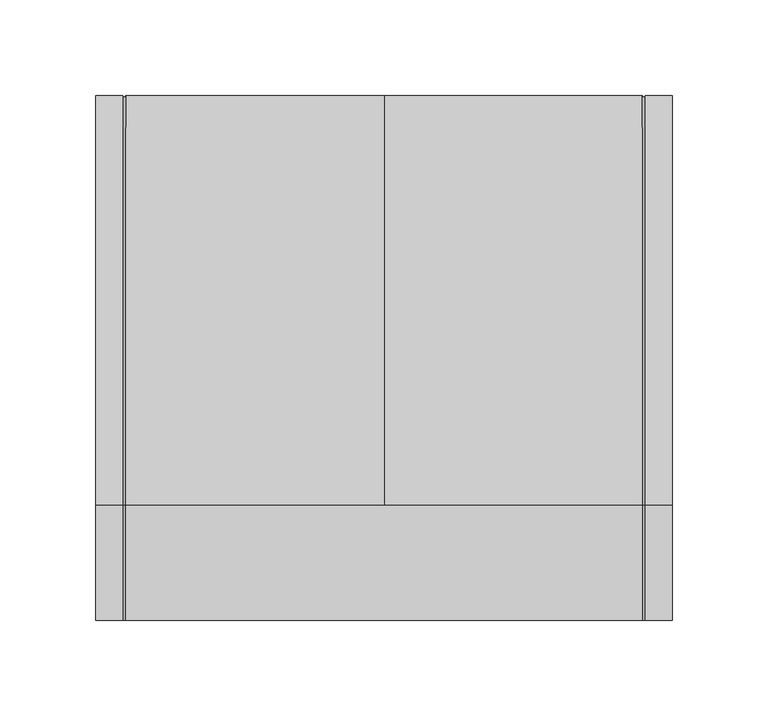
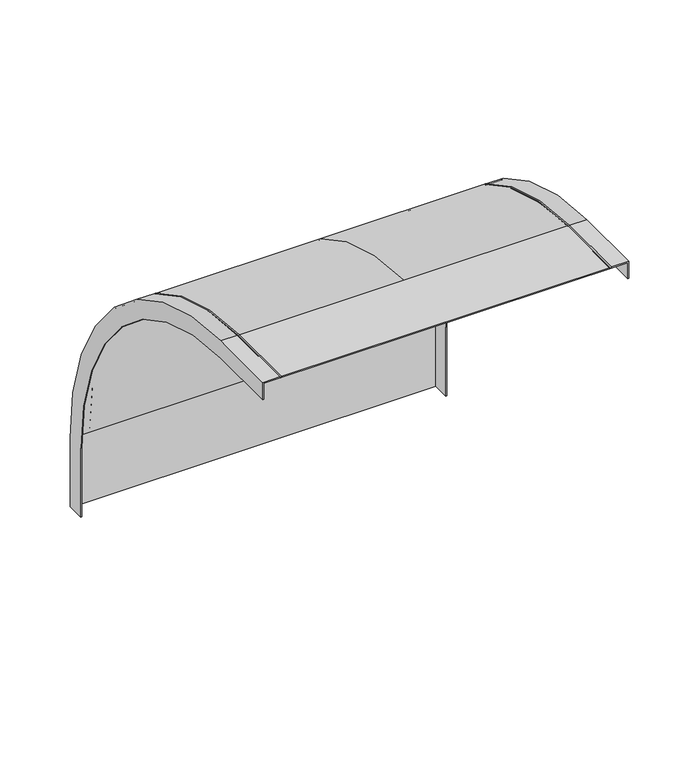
"""IFC4 building model written with IfcOpenShell, lengths in millimetres: proxy geometry, Cable_Tray_Cover_TCXERC_Basortray : Basortray TCXERC 300x100-GS."""

from ifc_helpers import new_model, si_unit, point, frame, origin, place, context, project, spatial, polyline, circle_curve, ellipse_curve, trimmed, source, transform, mapped, element, save
from ifc_brep_helpers import plane_surface, cylinder_surface, revolved_surface, advanced_brep


def generic_models_648d6697(model_context):
    return source(origin(), model_context, "Body", "AdvancedBrep", [
        advanced_brep(
        [(151.0, 0.8, -274.0), (151.0, -14.2, -274.0), (150.0, -14.2, -274.0), (150.0, -0.2, -274.0), (-150.0, -0.2, -274.0), (-150.0, -14.2, -274.0), (-151.0, -14.2, -274.0), (-151.0, 0.8, -274.0), (-136.8, 0.8, -274.0), (-135.2, 0.8, -274.0), (135.2, 0.8, -274.0), (136.8, 0.8, -274.0), (-151.0, -274.0, 0.8), (-151.0, -274.0, -14.2), (-150.0, -274.0, -14.2), (-150.0, -274.0, -0.2), (150.0, -274.0, -0.2), (150.0, -274.0, -14.2), (151.0, -274.0, -14.2), (151.0, -274.0, 0.8), (136.8, -274.0, 0.8), (135.2, -274.0, 0.8), (-135.2, -274.0, 0.8), (-136.8, -274.0, 0.8), (-151.0, -214.0, 0.8), (-136.8, -214.0, 0.8), (151.0, -214.0, 0.8), (136.8, -214.0, 0.8), (0.0, -214.0, 0.8), (-135.2, -214.0, 0.8), (135.2, -214.0, 0.8), (-151.0, -214.0, -14.2), (-150.0, -214.0, -14.2), (-150.0, -214.0, -0.2), (0.0, -214.0, -0.2), (150.0, -214.0, -0.2), (150.0, -214.0, -14.2), (151.0, -214.0, -14.2), (151.0, 0.8, -214.0), (151.0, -14.2, -214.0), (150.0, -14.2, -214.0), (150.0, -0.2, -214.0), (0.0, -0.2, -214.0), (-150.0, -0.2, -214.0), (-150.0, -14.2, -214.0), (-151.0, -14.2, -214.0), (-151.0, 0.8, -214.0), (136.8, 0.8, -214.0), (-136.8, 0.8, -214.0), (-135.2, 0.8, -214.0), (0.0, 0.8, -214.0), (135.2, 0.8, -214.0)],
        [
            (0, 1),
            (1, 2),
            (2, 3),
            (3, 4),
            (4, 5),
            (5, 6),
            (6, 7),
            (7, 8),
            (8, 9, circle_curve(frame((-136.0, 0.8, -274.0), z_axis=(0.0, 0.0, 1.0), x_axis=(0.0, -1.0, 0.0)), 0.8)),
            (9, 10),
            (10, 11, circle_curve(frame((136.0, 0.8, -274.0), z_axis=(0.0, 0.0, 1.0), x_axis=(0.0, -1.0, 0.0)), 0.8)),
            (11, 0),
            (12, 13),
            (13, 14),
            (14, 15),
            (15, 16),
            (16, 17),
            (17, 18),
            (18, 19),
            (19, 20),
            (20, 21, circle_curve(frame((136.0, -274.0, 0.8), z_axis=(0.0, 1.0, 0.0), x_axis=(0.0, 0.0, -1.0)), 0.8)),
            (21, 22),
            (22, 23, circle_curve(frame((-136.0, -274.0, 0.8), z_axis=(0.0, 1.0, 0.0), x_axis=(0.0, 0.0, -1.0)), 0.8)),
            (23, 12),
            (24, 12),
            (23, 25),
            (25, 24),
            (19, 26),
            (26, 27),
            (27, 20),
            (28, 29),
            (29, 22),
            (21, 30),
            (30, 28),
            (13, 31),
            (31, 32),
            (32, 14),
            (15, 33),
            (33, 34),
            (34, 35),
            (35, 16),
            (17, 36),
            (36, 37),
            (37, 18),
            (0, 38),
            (38, 26, circle_curve(frame((151.0, -214.0, -214.0), z_axis=(1.0, 0.0, 0.0), x_axis=(0.0, 1.0, 0.0)), 214.8)),
            (37, 39, circle_curve(frame((151.0, -214.0, -214.0), z_axis=(-1.0, 0.0, 0.0), x_axis=(0.0, 1.0, 0.0)), 199.8)),
            (39, 1),
            (39, 40),
            (40, 2),
            (40, 36, circle_curve(frame((150.0, -214.0, -214.0), z_axis=(1.0, 0.0, 0.0), x_axis=(0.0, 1.0, 0.0)), 199.8)),
            (35, 41, circle_curve(frame((150.0, -214.0, -214.0), z_axis=(-1.0, 0.0, 0.0), x_axis=(0.0, 1.0, 0.0)), 213.8)),
            (41, 3),
            (41, 42),
            (42, 43),
            (43, 4),
            (43, 33, circle_curve(frame((-150.0, -214.0, -214.0), z_axis=(1.0, 0.0, 0.0), x_axis=(0.0, 1.0, 0.0)), 213.8)),
            (32, 44, circle_curve(frame((-150.0, -214.0, -214.0), z_axis=(-1.0, 0.0, 0.0), x_axis=(0.0, 1.0, 0.0)), 199.8)),
            (44, 5),
            (44, 45),
            (45, 6),
            (45, 31, circle_curve(frame((-151.0, -214.0, -214.0), z_axis=(1.0, 0.0, 0.0), x_axis=(0.0, 1.0, 0.0)), 199.8)),
            (24, 46, circle_curve(frame((-151.0, -214.0, -214.0), z_axis=(-1.0, 0.0, 0.0), x_axis=(0.0, 1.0, 0.0)), 214.8)),
            (46, 7),
            (11, 47),
            (47, 38),
            (46, 48),
            (48, 8),
            (49, 50),
            (50, 51),
            (51, 10),
            (9, 49),
            (34, 42, circle_curve(frame((0.0, -214.0, -214.0), z_axis=(-1.0, 0.0, 0.0), x_axis=(0.0, 1.0, 0.0)), 213.8)),
            (25, 48, circle_curve(frame((-136.8, -214.0, -214.0), z_axis=(-1.0, 0.0, 0.0), x_axis=(0.0, 1.0, 0.0)), 214.8)),
            (28, 50, circle_curve(frame((0.0, -214.0, -214.0), z_axis=(-1.0, 0.0, 0.0), x_axis=(0.0, 1.0, 0.0)), 214.8)),
            (49, 29, circle_curve(frame((-135.2, -214.0, -214.0), z_axis=(1.0, 0.0, 0.0), x_axis=(0.0, 1.0, 0.0)), 214.8)),
            (47, 27, circle_curve(frame((136.8, -214.0, -214.0), z_axis=(1.0, 0.0, 0.0), x_axis=(0.0, 1.0, 0.0)), 214.8)),
            (30, 51, circle_curve(frame((135.2, -214.0, -214.0), z_axis=(-1.0, 0.0, 0.0), x_axis=(0.0, 1.0, 0.0)), 214.8)),
            (29, 25, circle_curve(frame((-136.0, -214.0, 0.8), z_axis=(0.0, 1.0, 0.0), x_axis=(0.0, 0.0, -1.0)), 0.8)),
            (48, 49, circle_curve(frame((-136.0, 0.8, -214.0), z_axis=(0.0, 0.0, 1.0), x_axis=(0.0, -1.0, 0.0)), 0.8)),
            (27, 30, circle_curve(frame((136.0, -214.0, 0.8), z_axis=(0.0, 1.0, 0.0), x_axis=(0.0, 0.0, -1.0)), 0.8)),
            (51, 47, circle_curve(frame((136.0, 0.8, -214.0), z_axis=(0.0, 0.0, 1.0), x_axis=(0.0, -1.0, 0.0)), 0.8)),
        ],
        [
            plane_surface(frame((0.0, 0.0, -274.0), z_axis=(0.0, 0.0, -1.0), x_axis=(1.0, 0.0, 0.0))),
            plane_surface(frame((0.0, -274.0, 0.0), z_axis=(0.0, -1.0, 0.0), x_axis=(1.0, 0.0, 0.0))),
            plane_surface(frame((0.0, -214.0, 0.8), z_axis=(0.0, 0.0, 1.0), x_axis=(0.0, -1.0, 0.0))),
            plane_surface(frame((-150.0, -214.0, -14.2), z_axis=(0.0, 0.0, -1.0), x_axis=(0.0, -1.0, 0.0))),
            plane_surface(frame((0.0, -214.0, -0.2), z_axis=(0.0, 0.0, -1.0), x_axis=(0.0, -1.0, 0.0))),
            plane_surface(frame((151.0, -214.0, -14.2), z_axis=(0.0, 0.0, -1.0), x_axis=(0.0, -1.0, 0.0))),
            plane_surface(frame((151.0, 0.8, -274.0), z_axis=(1.0, 0.0, 0.0), x_axis=(0.0, 0.0, 1.0))),
            plane_surface(frame((151.0, -14.2, -274.0), z_axis=(0.0, -1.0, 0.0), x_axis=(0.0, 0.0, 1.0))),
            plane_surface(frame((150.0, -14.2, -274.0), z_axis=(-1.0, 0.0, 0.0), x_axis=(0.0, 0.0, 1.0))),
            plane_surface(frame((0.0, -0.2, -274.0), z_axis=(0.0, -1.0, 0.0), x_axis=(0.0, 0.0, 1.0))),
            plane_surface(frame((-150.0, -0.2, -274.0), z_axis=(1.0, 0.0, 0.0), x_axis=(0.0, 0.0, 1.0))),
            plane_surface(frame((-150.0, -14.2, -274.0), z_axis=(0.0, -1.0, 0.0), x_axis=(0.0, 0.0, 1.0))),
            plane_surface(frame((-151.0, -14.2, -274.0), z_axis=(-1.0, 0.0, 0.0), x_axis=(0.0, 0.0, 1.0))),
            plane_surface(frame((0.0, 0.8, -274.0), z_axis=(0.0, 1.0, 0.0), x_axis=(0.0, 0.0, 1.0))),
            revolved_surface(polyline([(151.0, -14.199999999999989, -214.0), (150.0, -14.199999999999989, -214.0)]), (0.0, -214.0, -214.0), (1.0, 0.0, 0.0)),
            revolved_surface(polyline([(150.0, -0.19999999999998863, -214.0), (0.0, -0.19999999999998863, -214.0)]), (0.0, -214.0, -214.0), (1.0, 0.0, 0.0)),
            revolved_surface(polyline([(0.0, -0.19999999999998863, -214.0), (-150.0, -0.19999999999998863, -214.0)]), (0.0, -214.0, -214.0), (1.0, 0.0, 0.0)),
            revolved_surface(polyline([(-150.0, -14.199999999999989, -214.0), (-151.0, -14.199999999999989, -214.0)]), (0.0, -214.0, -214.0), (1.0, 0.0, 0.0)),
            cylinder_surface(frame((0.0, -214.0, -214.0), z_axis=(1.0, 0.0, 0.0), x_axis=(0.0, 1.0, 0.0)), 214.8),
            revolved_surface(polyline([(-136.0, -214.0, 0.0), (-136.0, -274.0, 0.0)]), (-136.0, -214.0, 0.8), (0.0, 1.0, 0.0)),
            revolved_surface(polyline([(-136.0, 0.0, -274.0), (-136.0, 0.0, -214.0)]), (-136.0, 0.8, -274.0), (0.0, 0.0, -1.0)),
            revolved_surface(trimmed(ellipse_curve(frame((-136.0, 0.8, -214.0), z_axis=(0.0, 0.0, 1.0), x_axis=(0.0, -1.0, 0.0)), 0.8, 0.8), [point((-136.8, 0.8, -214.0))], [point((-135.2, 0.8, -214.0))], True, "CARTESIAN"), (-136.0, -214.0, -214.0), (1.0, 0.0, 0.0)),
            revolved_surface(polyline([(136.0, -214.0, 0.0), (136.0, -274.0, 0.0)]), (136.0, -214.0, 0.8), (0.0, 1.0, 0.0)),
            revolved_surface(polyline([(136.0, 0.0, -274.0), (136.0, 0.0, -214.0)]), (136.0, 0.8, -274.0), (0.0, 0.0, -1.0)),
            revolved_surface(trimmed(ellipse_curve(frame((136.0, 0.8, -214.0), z_axis=(0.0, 0.0, 1.0), x_axis=(0.0, -1.0, 0.0)), 0.8, 0.8), [point((135.2, 0.8, -214.0))], [point((136.8, 0.8, -214.0))], True, "CARTESIAN"), (136.0, -214.0, -214.0), (1.0, 0.0, 0.0)),
        ],
        [
            (0, [[1, 2, 3, 4, 5, 6, 7, 8, 9, 10, 11, 12]]),
            (1, [[13, 14, 15, 16, 17, 18, 19, 20, 21, 22, 23, 24]]),
            (2, [[25, -24, 26, 27]]),
            (2, [[28, 29, 30, -20]]),
            (2, [[31, 32, -22, 33, 34]]),
            (3, [[-14, 35, 36, 37]]),
            (4, [[-16, 38, 39, 40, 41]]),
            (5, [[-18, 42, 43, 44]]),
            (6, [[-1, 45, 46, -28, -19, -44, 47, 48]]),
            (7, [[-2, -48, 49, 50]]),
            (8, [[-3, -50, 51, -42, -17, -41, 52, 53]]),
            (9, [[-4, -53, 54, 55, 56]]),
            (10, [[-5, -56, 57, -38, -15, -37, 58, 59]]),
            (11, [[-6, -59, 60, 61]]),
            (12, [[-7, -61, 62, -35, -13, -25, 63, 64]]),
            (13, [[-45, -12, 65, 66]]),
            (13, [[-64, 67, 68, -8]]),
            (13, [[69, 70, 71, -10, 72]]),
            (14, [[-43, -51, -49, -47]]),
            (15, [[-40, 73, -54, -52]]),
            (16, [[-39, -57, -55, -73]]),
            (17, [[-36, -62, -60, -58]]),
            (18, [[-63, -27, 74, -67]]),
            (18, [[75, -69, 76, -31]]),
            (18, [[-46, -66, 77, -29]]),
            (18, [[-75, -34, 78, -70]]),
            (19, [[79, -26, -23, -32]]),
            (20, [[80, -72, -9, -68]]),
            (21, [[-79, -76, -80, -74]]),
            (22, [[81, -33, -21, -30]]),
            (23, [[82, -65, -11, -71]]),
            (24, [[-81, -77, -82, -78]]),
        ],
    ),
    ])


if __name__ == "__main__":
    model = new_model("IFC4")
    model_context = context("Model", 3, world=origin())
    ifc_project = project(units=[si_unit("LENGTHUNIT", "METRE", prefix="MILLI")], contexts=[model_context])
    site = spatial("IfcSite", under=ifc_project)
    building = spatial("IfcBuilding", under=site)
    placement = place(None, origin())
    generic_models_shape = generic_models_648d6697(model_context)
    element("IfcBuildingElementProxy", 1, Name="Cable_Tray_Cover_TCXERC_Basortray : Basortray TCXERC 300x100-GS", ObjectType="Cable_Tray_Cover_TCXERC_Basortray : Basortray TCXERC 300x100-GS", at=placement, inside=building, context=model_context, shape_type="MappedRepresentation", body=[
        mapped(generic_models_shape, transform((0.0, 0.0, 0.0), x_axis=(1.0, 0.0, 0.0), y_axis=(0.0, 1.0, 0.0), z_axis=(0.0, 0.0, 1.0))),
    ])
    save(model, "model.ifc")
